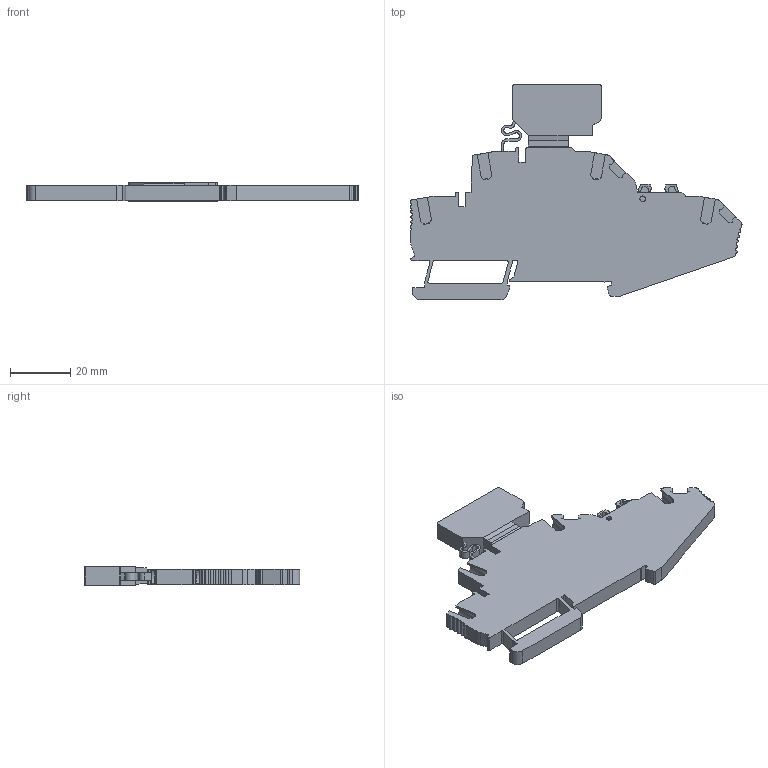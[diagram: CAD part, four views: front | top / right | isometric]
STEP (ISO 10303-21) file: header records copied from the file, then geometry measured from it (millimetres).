
FILE_DESCRIPTION(('Creo Elements/Direct Modeling STEP Export'),'2;1');
FILE_NAME('EFDS212GR.stp','2020-02-17T11:38:39',(''),(''),'Creo Elements/Direct Modeling STEP processor for AP214 (Solid Model)','Creo Elements/Direct Modeling 20.2A 23-Sep-2019 (C) Parametric Technology GmbH','');
FILE_SCHEMA(('AUTOMOTIVE_DESIGN { 1 0 10303 214 1 1 1 1 }'));
Length unit declared in the file: millimetre
Products named in the file (2): EFDS212GR
Assembly tree (1 placements, depth 2):
  EFDS212GR
    EFDS212GR
Bounding box: 110.27 x 71.5 x 6 mm (x, y, z)
Volume: 20963 mm3; surface area: 13294.3 mm2
Topology: 1 solids, 1 shells, 451 faces, 1318 edges, 867 vertices
Faces by surface type: plane 323, cylinder 128
Entity records: 15083 total; most frequent: ORIENTED_EDGE 2636, CARTESIAN_POINT 2514, DIRECTION 2286, EDGE_CURVE 1318, VECTOR 1008, LINE 1008, VERTEX_POINT 867, AXIS2_PLACEMENT_3D 639
